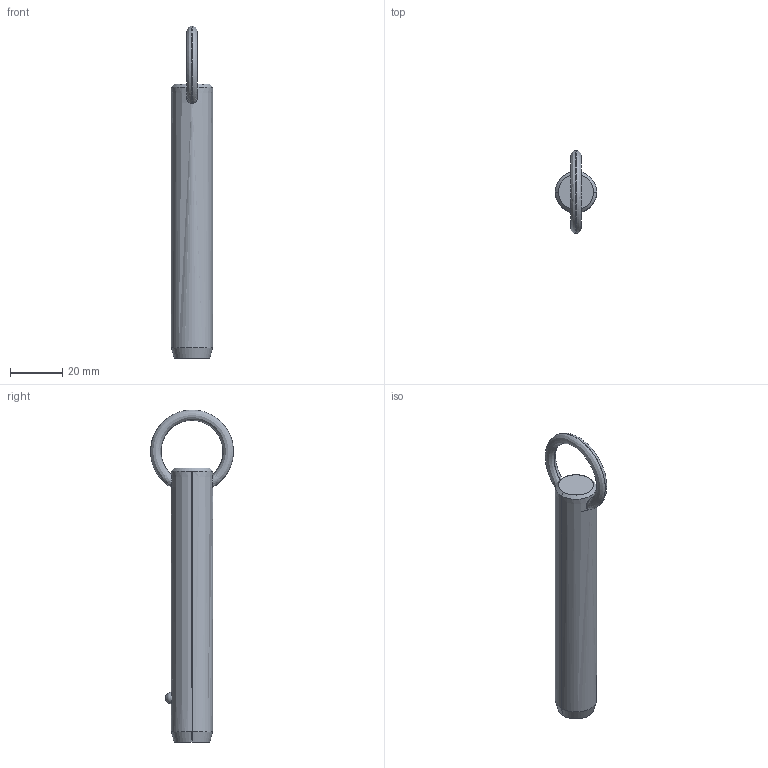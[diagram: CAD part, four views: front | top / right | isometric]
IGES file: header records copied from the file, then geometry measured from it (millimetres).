
Start section: SolidWorks IGES file using analytic representation for surfaces
Global section: file name: C:\Users\liam_\OneDrive\Documents\WORK\Work for WixRoyd\Job Files\J-00019 - Matt Davis CAD Checking\04. CAD Drawings\automotion20190605\P1250.2_v2\P1250.2_v2_20190729_IGES\P1250.062-300.igs; native system: SolidWorks 2017; preprocessor: SolidWorks 2017; author: liam_; date: 190729.233426; units: millimetre
Bounding box: 15.8 x 31.69 x 126.9 mm (x, y, z)
Surface area: 6370.9 mm2 (no closed solid volume)
Topology: 0 solids, 0 shells, 12 faces, 292 edges, 290 vertices
Faces by surface type: revolution 8, bspline 4
